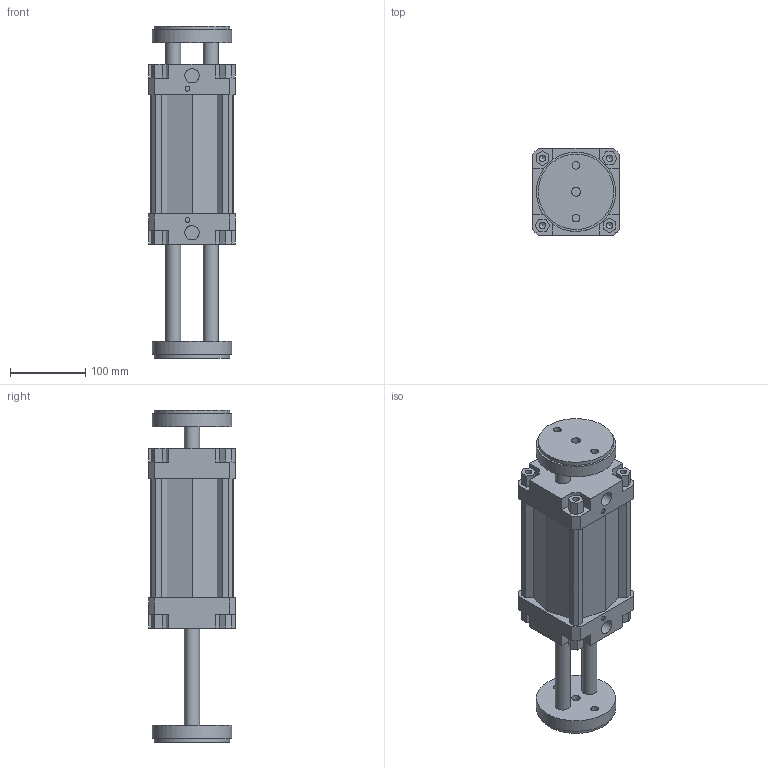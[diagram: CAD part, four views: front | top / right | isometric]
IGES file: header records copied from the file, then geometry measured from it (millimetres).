
Global section: file name: 132#_100_0100_06; native system: Autodesk Inventor 2014; preprocessor: unknown; author: A. Manieri; date: 20161006.163654; units: millimetre
Bounding box: 115 x 115 x 440 mm (x, y, z)
Volume: 2341094.1 mm3; surface area: 352764.8 mm2
Topology: 2 solids, 2 shells, 190 faces, 518 edges, 354 vertices
Faces by surface type: bspline 190
